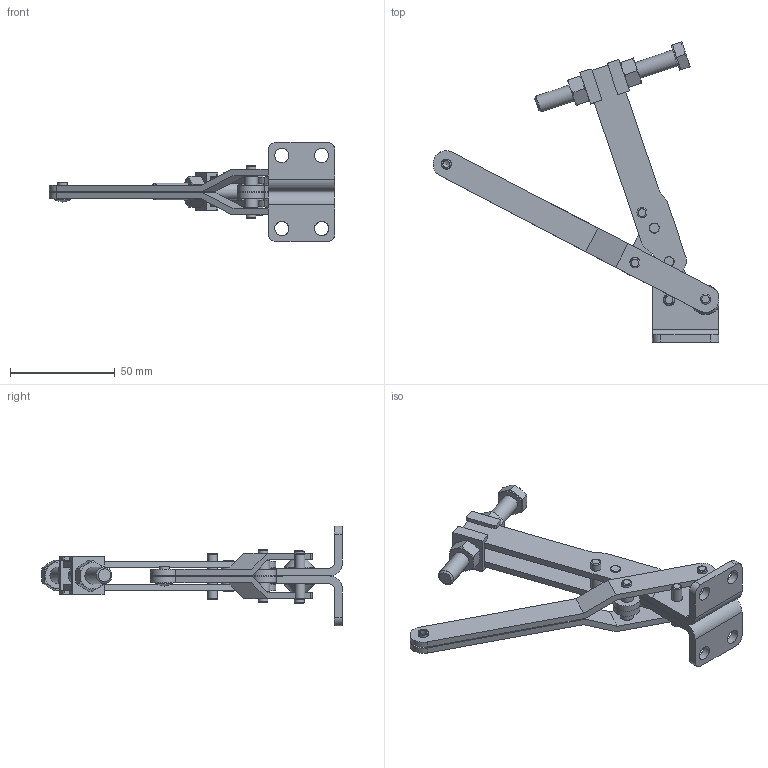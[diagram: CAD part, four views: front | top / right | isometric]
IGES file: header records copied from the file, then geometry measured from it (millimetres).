
Global section: file name: V-200 Open; native system: Autodesk RealDWG; preprocessor: Autodesk Translation Framework DWG producer (atf_dwg_producer); author: rtaylor; organization: unknown; date: 20150909.144614; units: inch
Bounding box: 136.6 x 143.67 x 47.65 mm (x, y, z)
Volume: 43802.5 mm3; surface area: 35881.6 mm2
Topology: 20 solids, 20 shells, 329 faces, 804 edges, 525 vertices
Faces by surface type: bspline 329
